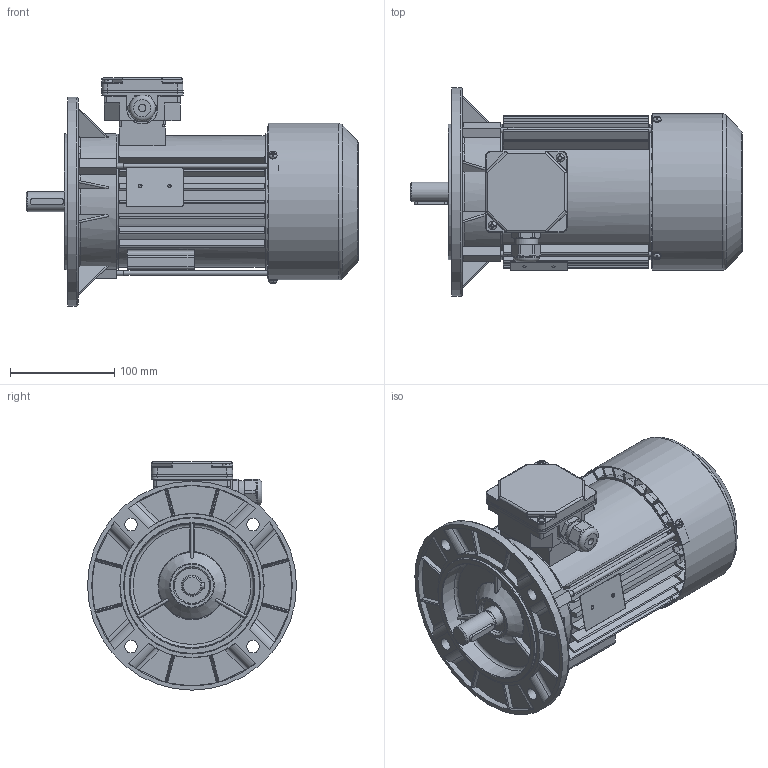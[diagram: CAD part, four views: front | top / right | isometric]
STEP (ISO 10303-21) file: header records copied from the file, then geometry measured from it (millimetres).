
FILE_DESCRIPTION(/* description */ ('Unknown'),/* implementation_level */ '2;1');
FILE_NAME(/* name */ '2SIEK80-8B',/* time_stamp */ '2021-04-12T14:57:01+02:00',/* author */ ('Unknown'),/* organization */ ('Unknown'),/* preprocessor_version */ 'ST-DEVELOPER v16.7',/* originating_system */ 'Solid Edge',/* authorisation */ 'Unknown');
FILE_SCHEMA (('AUTOMOTIVE_DESIGN {1 0 10303 214 3 1 1}'));
Products named in the file (1): 2SIEK80-8B
Bounding box: 317.78 x 200 x 218.5 mm (x, y, z)
Volume: 1028785.7 mm3; surface area: 594207.6 mm2
Topology: 4 solids, 4 shells, 2418 faces, 6769 edges, 4415 vertices
Faces by surface type: plane 1204, cylinder 776, torus 174, cone 130, bspline 114, sphere 20
Full cylindrical faces by diameter (mm): 2 x2, 2.4 x2, 3.7 x8, 4 x4, 4.4 x3, 4.5 x1, 4.8 x2, 5 x5, 5.1 x3, 5.5 x3, 7 x1, 8 x6, 12 x4, 18.598 x1, 18.998 x1, 19.298 x1, 19.498 x1, 19.898 x1, 19.948 x1, 19.998 x2, 20.4 x2, 22.3 x1, 25 x1, 25.497 x1, 25.597 x1, 25.997 x4, 28.799 x4, 34 x2, 38.198 x4, 42 x2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
Entity records: 97450 total; most frequent: CARTESIAN_POINT 21718, ORIENTED_EDGE 12874, DIRECTION 12057, EDGE_CURVE 6437, AXIS2_PLACEMENT_3D 4404, VERTEX_POINT 4295, LINE 3249, VECTOR 3249
